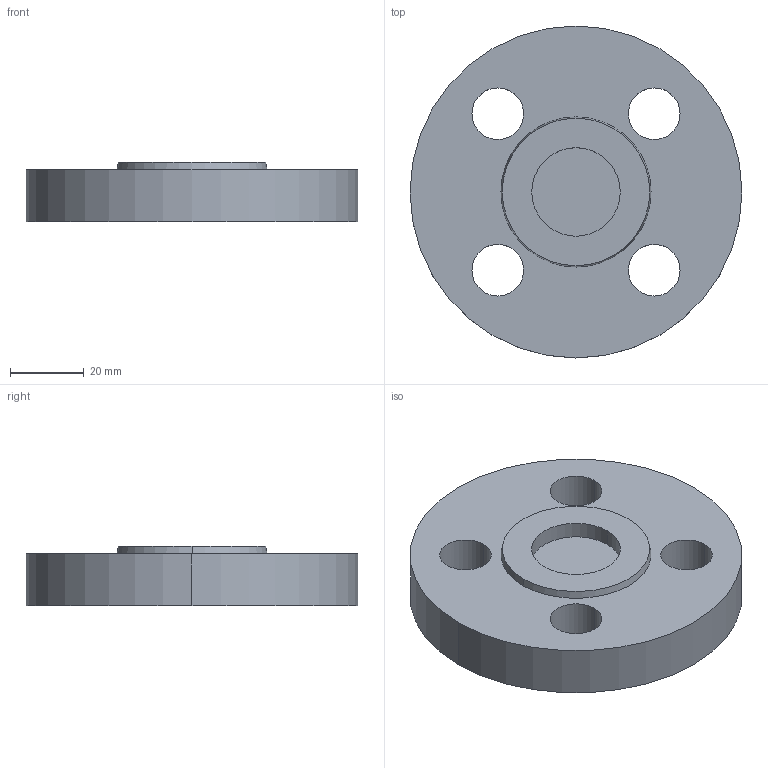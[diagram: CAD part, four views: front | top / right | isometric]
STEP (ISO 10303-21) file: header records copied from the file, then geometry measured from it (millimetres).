
FILE_DESCRIPTION (( 'STEP AP214' ), '1' );
FILE_NAME ('PN40 DN10 Type 05 - Type G Face.STEP', '2018-12-29T05:13:47', ( '' ), ( '' ), 'SwSTEP 2.0', 'SolidWorks 2019', '' );
FILE_SCHEMA (( 'AUTOMOTIVE_DESIGN' ));
Length unit declared in the file: millimetre
Products named in the file (1): PN40 DN10 Type 05 - Type G Face
Bounding box: 90 x 90 x 16 mm (x, y, z)
Volume: 80965.7 mm3; surface area: 18465.4 mm2
Topology: 1 solids, 1 shells, 18 faces, 42 edges, 28 vertices
Faces by surface type: cylinder 12, plane 4, cone 2
Entity records: 584 total; most frequent: DIRECTION 108, CARTESIAN_POINT 89, ORIENTED_EDGE 84, AXIS2_PLACEMENT_3D 47, EDGE_CURVE 42, CIRCLE 28, VERTEX_POINT 28, EDGE_LOOP 28
